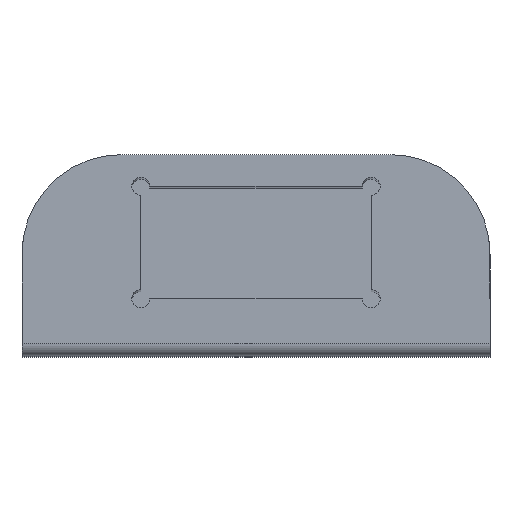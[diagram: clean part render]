
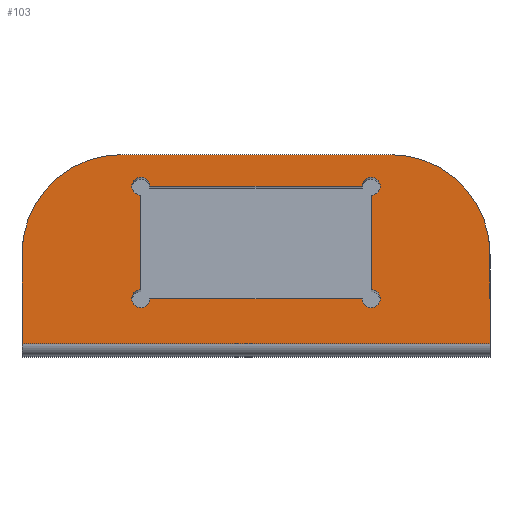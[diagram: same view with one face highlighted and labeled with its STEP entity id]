
A CAD part, top view. The second image highlights one B-rep face of the part: STEP entity #103.
In plain terms, the highlighted planar face has unit normal (0, 0, 1).
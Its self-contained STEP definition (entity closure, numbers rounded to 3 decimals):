
#103=ADVANCED_FACE('',(#462,#464),#466,.F.);
#462=FACE_BOUND('',#463,.T.);
#463=EDGE_LOOP('',(#784,#785,#786,#787,#788,#789));
#464=FACE_BOUND('',#465,.T.);
#465=EDGE_LOOP('',(#790,#791,#792,#793,#794,#795,#796,#797));
#466=PLANE('',#467);
#467=AXIS2_PLACEMENT_3D('',#468,#469,#470);
#468=CARTESIAN_POINT('',(-59.353,35.,138.866));
#469=DIRECTION('',(0.,0.,-1.));
#470=DIRECTION('',(1.,0.,0.));
#784=ORIENTED_EDGE('',*,*,#980,.F.);
#785=ORIENTED_EDGE('',*,*,#981,.F.);
#786=ORIENTED_EDGE('',*,*,#982,.F.);
#787=ORIENTED_EDGE('',*,*,#983,.F.);
#788=ORIENTED_EDGE('',*,*,#984,.F.);
#789=ORIENTED_EDGE('',*,*,#985,.F.);
#790=ORIENTED_EDGE('',*,*,#986,.T.);
#791=ORIENTED_EDGE('',*,*,#970,.F.);
#792=ORIENTED_EDGE('',*,*,#987,.T.);
#793=ORIENTED_EDGE('',*,*,#979,.F.);
#794=ORIENTED_EDGE('',*,*,#988,.T.);
#795=ORIENTED_EDGE('',*,*,#975,.F.);
#796=ORIENTED_EDGE('',*,*,#989,.T.);
#797=ORIENTED_EDGE('',*,*,#972,.F.);
#970=EDGE_CURVE('',#1078,#1076,#1080,.T.);
#972=EDGE_CURVE('',#1081,#1083,#1084,.F.);
#975=EDGE_CURVE('',#1086,#1088,#1089,.F.);
#979=EDGE_CURVE('',#1093,#1091,#1095,.F.);
#980=EDGE_CURVE('',#1096,#1097,#1098,.F.);
#981=EDGE_CURVE('',#1099,#1096,#1100,.F.);
#982=EDGE_CURVE('',#1101,#1099,#1102,.F.);
#983=EDGE_CURVE('',#1103,#1101,#1104,.F.);
#984=EDGE_CURVE('',#1105,#1103,#1106,.F.);
#985=EDGE_CURVE('',#1097,#1105,#1107,.F.);
#986=EDGE_CURVE('',#1081,#1076,#1108,.F.);
#987=EDGE_CURVE('',#1078,#1091,#1109,.F.);
#988=EDGE_CURVE('',#1093,#1088,#1110,.F.);
#989=EDGE_CURVE('',#1086,#1083,#1111,.F.);
#1076=VERTEX_POINT('',#1268);
#1078=VERTEX_POINT('',#1272);
#1080=LINE('',#1276,#1277);
#1081=VERTEX_POINT('',#1279);
#1083=VERTEX_POINT('',#1283);
#1084=LINE('',#1284,#1285);
#1086=VERTEX_POINT('',#1290);
#1088=VERTEX_POINT('',#1294);
#1089=LINE('',#1295,#1296);
#1091=VERTEX_POINT('',#1301);
#1093=VERTEX_POINT('',#1305);
#1095=LINE('',#1309,#1310);
#1096=VERTEX_POINT('',#1312);
#1097=VERTEX_POINT('',#1313);
#1098=CIRCLE('',#1314,11.);
#1099=VERTEX_POINT('',#1318);
#1100=LINE('',#1319,#1320);
#1101=VERTEX_POINT('',#1322);
#1102=LINE('',#1323,#1324);
#1103=VERTEX_POINT('',#1326);
#1104=LINE('',#1327,#1328);
#1105=VERTEX_POINT('',#1330);
#1106=CIRCLE('',#1331,11.);
#1107=LINE('',#1335,#1336);
#1108=CIRCLE('',#1338,1.);
#1109=CIRCLE('',#1342,1.);
#1110=CIRCLE('',#1346,1.);
#1111=CIRCLE('',#1350,1.);
#1268=CARTESIAN_POINT('',(-14.2,0.,138.866));
#1272=CARTESIAN_POINT('',(-37.8,0.,138.866));
#1276=CARTESIAN_POINT('',(-37.8,0.,138.866));
#1277=VECTOR('',#1278,1.);
#1278=DIRECTION('',(1.,0.,0.));
#1279=CARTESIAN_POINT('',(-13.2,1.,138.866));
#1283=CARTESIAN_POINT('',(-13.2,11.5,138.866));
#1284=CARTESIAN_POINT('',(-13.2,11.5,138.866));
#1285=VECTOR('',#1286,1.);
#1286=DIRECTION('',(0.,-1.,0.));
#1290=CARTESIAN_POINT('',(-14.2,12.5,138.866));
#1294=CARTESIAN_POINT('',(-37.8,12.5,138.866));
#1295=CARTESIAN_POINT('',(-37.8,12.5,138.866));
#1296=VECTOR('',#1297,1.);
#1297=DIRECTION('',(1.,0.,0.));
#1301=CARTESIAN_POINT('',(-38.8,1.,138.866));
#1305=CARTESIAN_POINT('',(-38.8,11.5,138.866));
#1309=CARTESIAN_POINT('',(-38.8,1.,138.866));
#1310=VECTOR('',#1311,1.);
#1311=DIRECTION('',(0.,1.,0.));
#1312=CARTESIAN_POINT('',(-52.,5.,138.866));
#1313=CARTESIAN_POINT('',(-41.,16.,138.866));
#1314=AXIS2_PLACEMENT_3D('',#1315,#1316,#1317);
#1315=CARTESIAN_POINT('',(-41.,5.,138.866));
#1316=DIRECTION('',(0.,-0.,1.));
#1317=DIRECTION('',(0.,1.,0.));
#1318=CARTESIAN_POINT('',(-52.,-5.,138.866));
#1319=CARTESIAN_POINT('',(-52.,5.,138.866));
#1320=VECTOR('',#1321,1.);
#1321=DIRECTION('',(0.,-1.,0.));
#1322=CARTESIAN_POINT('',(0.,-5.,138.866));
#1323=CARTESIAN_POINT('',(-52.,-5.,138.866));
#1324=VECTOR('',#1325,1.);
#1325=DIRECTION('',(1.,0.,0.));
#1326=CARTESIAN_POINT('',(0.,5.,138.866));
#1327=CARTESIAN_POINT('',(0.,-5.,138.866));
#1328=VECTOR('',#1329,1.);
#1329=DIRECTION('',(0.,1.,0.));
#1330=CARTESIAN_POINT('',(-11.,16.,138.866));
#1331=AXIS2_PLACEMENT_3D('',#1332,#1333,#1334);
#1332=CARTESIAN_POINT('',(-11.,5.,138.866));
#1333=DIRECTION('',(0.,0.,1.));
#1334=DIRECTION('',(1.,0.,0.));
#1335=CARTESIAN_POINT('',(-11.,16.,138.866));
#1336=VECTOR('',#1337,1.);
#1337=DIRECTION('',(-1.,0.,0.));
#1338=AXIS2_PLACEMENT_3D('',#1339,#1340,#1341);
#1339=CARTESIAN_POINT('',(-13.2,0.,138.866));
#1340=DIRECTION('',(0.,0.,1.));
#1341=DIRECTION('',(-1.,0.,0.));
#1342=AXIS2_PLACEMENT_3D('',#1343,#1344,#1345);
#1343=CARTESIAN_POINT('',(-38.8,0.,138.866));
#1344=DIRECTION('',(0.,0.,1.));
#1345=DIRECTION('',(0.,1.,0.));
#1346=AXIS2_PLACEMENT_3D('',#1347,#1348,#1349);
#1347=CARTESIAN_POINT('',(-38.8,12.5,138.866));
#1348=DIRECTION('',(0.,0.,1.));
#1349=DIRECTION('',(1.,0.,0.));
#1350=AXIS2_PLACEMENT_3D('',#1351,#1352,#1353);
#1351=CARTESIAN_POINT('',(-13.2,12.5,138.866));
#1352=DIRECTION('',(0.,0.,1.));
#1353=DIRECTION('',(0.,-1.,0.));
